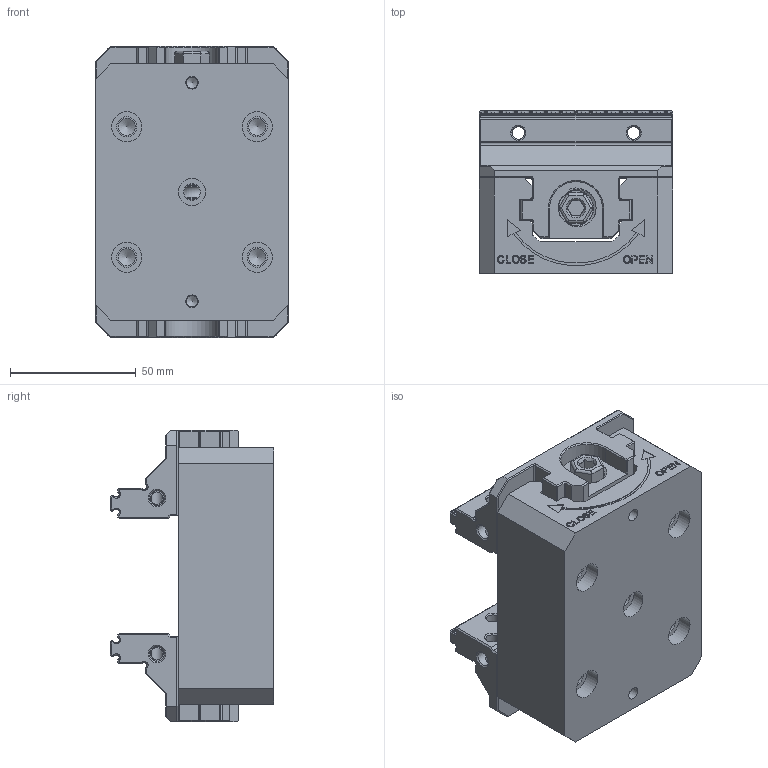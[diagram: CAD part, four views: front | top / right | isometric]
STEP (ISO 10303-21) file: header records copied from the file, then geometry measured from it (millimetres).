
FILE_DESCRIPTION(/* description */ (''),/* implementation_level */ '2;1');
FILE_NAME(/* name */ '',/* time_stamp */ '2022-11-11T16:17:39+08:00',/* author */ (''),/* organization */ (''),/* preprocessor_version */ 'ST-DEVELOPER v11',/* originating_system */ 'SIEMENS PLM Software NX 7.0',/* authorisation */ '');
FILE_SCHEMA (('CONFIG_CONTROL_DESIGN'));
Length unit declared in the file: millimetre
Products named in the file (1): Admi4AF94lke
Bounding box: 77 x 65 x 116 mm (x, y, z)
Volume: 313497.9 mm3; surface area: 74902.3 mm2
Topology: 4 solids, 4 shells, 1221 faces, 3327 edges, 2162 vertices
Faces by surface type: plane 712, cylinder 354, cone 78, extrusion 50, bspline 16, torus 11
Full cylindrical faces by diameter (mm): 4.2 x8, 4.5 x2, 5 x22, 6 x4, 6.5 x1, 6.7 x4, 8 x4, 11 x1, 12 x4, 14 x2, 16 x2, 20 x2
Entity records: 45210 total; most frequent: CARTESIAN_POINT 15588, ORIENTED_EDGE 6270, DIRECTION 5678, EDGE_CURVE 3135, VERTEX_POINT 2103, VECTOR 2044, LINE 1994, AXIS2_PLACEMENT_3D 1817
